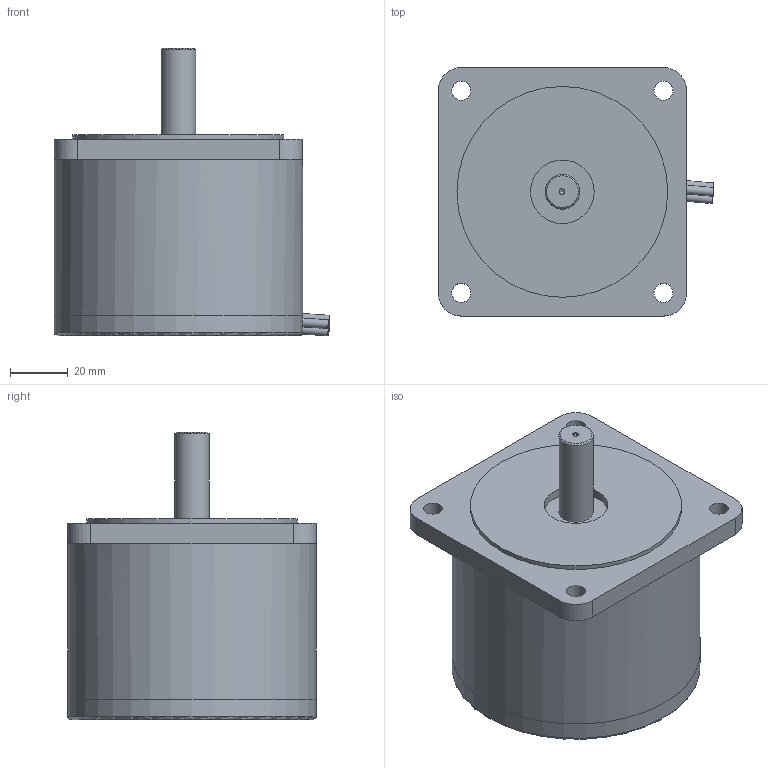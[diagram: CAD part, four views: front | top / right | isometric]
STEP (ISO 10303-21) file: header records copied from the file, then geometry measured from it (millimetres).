
FILE_DESCRIPTION((''),'2;1');
FILE_NAME('C:\Users\Reinhard\Documents\Inventor\Testschrittmotor\SM88\SM88.1L.stp','2012-11-11T21:18:36',('Reinhard'),(''),'Autodesk Inventor 2012','Autodesk Inventor 2012','');
FILE_SCHEMA(('CONFIG_CONTROL_DESIGN'));
Length unit declared in the file: millimetre
Products named in the file (1): SM88
Bounding box: 95.44 x 86 x 99.62 mm (x, y, z)
Volume: 110283.5 mm3; surface area: 61554.7 mm2
Topology: 1 solids, 1 shells, 63 faces, 156 edges, 93 vertices
Faces by surface type: cylinder 32, plane 28, cone 2, torus 1
Full cylindrical faces by diameter (mm): 2 x5, 6.6 x4, 12 x1, 22 x1, 73 x1, 78 x1, 82 x1, 86 x1
Entity records: 1937 total; most frequent: CARTESIAN_POINT 440, DIRECTION 321, ORIENTED_EDGE 270, AXIS2_PLACEMENT_3D 142, EDGE_CURVE 135, EDGE_LOOP 101, VERTEX_POINT 90, CIRCLE 72
